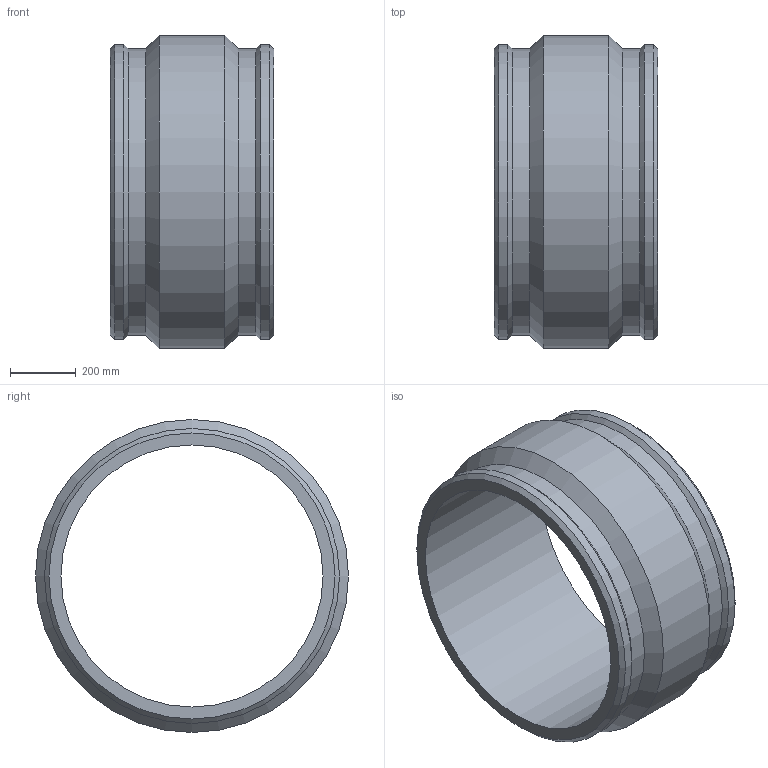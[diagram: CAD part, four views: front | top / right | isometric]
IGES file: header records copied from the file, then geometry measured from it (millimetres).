
Global section: file name: 490103800.ipt; native system: Autodesk Inventor 2015; preprocessor: unknown; author: KIM; date: 20171106.093528; units: millimetre
Bounding box: 500 x 955 x 955 mm (x, y, z)
Volume: 79374040.6 mm3; surface area: 3049890.5 mm2
Topology: 1 solids, 1 shells, 28 faces, 52 edges, 30 vertices
Faces by surface type: cylinder 11, plane 8, cone 6, revolution 3
Full cylindrical faces by diameter (mm): 4 x2, 873 x2, 900 x2, 955 x1
